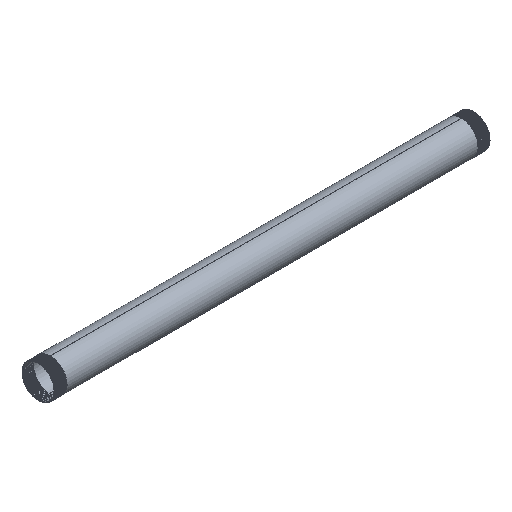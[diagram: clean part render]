
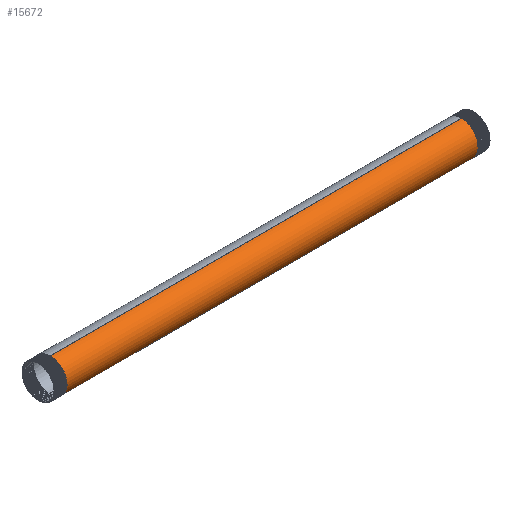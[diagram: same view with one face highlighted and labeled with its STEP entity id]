
A CAD part, isometric view. The second image highlights one B-rep face of the part: STEP entity #15672.
In plain terms, the highlighted cylindrical face has radius 38.05 mm (diameter 76.1 mm), a partial arc.
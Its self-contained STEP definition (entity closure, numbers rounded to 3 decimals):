
#72 =( BOUNDED_CURVE ( )  B_SPLINE_CURVE ( 2, ( #4931, #16792, #15470, #5013, #3616, #7654, #3447, #11512, #4843 ),
 .UNSPECIFIED., .F., .F. ) 
 B_SPLINE_CURVE_WITH_KNOTS ( ( 3, 2, 2, 2, 3 ),
 ( 0., 0.006, 0.011, 0.017, 0.023 ),
 .UNSPECIFIED. ) 
 CURVE ( )  GEOMETRIC_REPRESENTATION_ITEM ( )  RATIONAL_B_SPLINE_CURVE ( ( 1., 0.924, 1., 0.924, 1., 0.924, 1., 0.924, 1. ) ) 
 REPRESENTATION_ITEM ( '' )  );
#283 = ORIENTED_EDGE ( 'NONE', *, *, #5187, .T. ) ;
#652 = VECTOR ( 'NONE', #727, 1000. ) ;
#727 = DIRECTION ( 'NONE',  ( -1., 0., 0. ) ) ;
#1467 = CARTESIAN_POINT ( 'NONE',  ( 472.156, -38.05, 15.761 ) ) ;
#1650 = CARTESIAN_POINT ( 'NONE',  ( 471.688, 0., -38.05 ) ) ;
#3050 = CARTESIAN_POINT ( 'NONE',  ( 471.969, -38.05, -15.761 ) ) ;
#3447 = CARTESIAN_POINT ( 'NONE',  ( -472.25, -26.905, 26.905 ) ) ;
#3616 = CARTESIAN_POINT ( 'NONE',  ( -472.063, -38.05, 0. ) ) ;
#3717 = LINE ( 'NONE', #12756, #652 ) ;
#3879 = VERTEX_POINT ( 'NONE', #4413 ) ;
#4245 = CARTESIAN_POINT ( 'NONE',  ( -149.494, 0., -38.05 ) ) ;
#4279 = CARTESIAN_POINT ( 'NONE',  ( 472.438, 0., 38.05 ) ) ;
#4329 = CARTESIAN_POINT ( 'NONE',  ( -149.494, 0., 0. ) ) ;
#4413 = CARTESIAN_POINT ( 'NONE',  ( 472.438, 0., 38.05 ) ) ;
#4455 = CARTESIAN_POINT ( 'NONE',  ( 472.063, -38.05, 0. ) ) ;
#4838 = CARTESIAN_POINT ( 'NONE',  ( 471.688, 0., -38.05 ) ) ;
#4843 = CARTESIAN_POINT ( 'NONE',  ( -472.438, 0., 38.05 ) ) ;
#4931 = CARTESIAN_POINT ( 'NONE',  ( -471.688, 0., -38.05 ) ) ;
#5013 = CARTESIAN_POINT ( 'NONE',  ( -471.969, -38.05, -15.761 ) ) ;
#5187 = EDGE_CURVE ( 'NONE', #15794, #3879, #16904, .T. ) ;
#5594 = CARTESIAN_POINT ( 'NONE',  ( 471.875, -26.905, -26.905 ) ) ;
#5981 = EDGE_CURVE ( 'NONE', #12308, #6744, #72, .T. ) ;
#6744 = VERTEX_POINT ( 'NONE', #10223 ) ;
#7149 = DIRECTION ( 'NONE',  ( 0., 0., 1. ) ) ;
#7229 = CYLINDRICAL_SURFACE ( 'NONE', #11576, 38.05 ) ;
#7654 = CARTESIAN_POINT ( 'NONE',  ( -472.156, -38.05, 15.761 ) ) ;
#7818 = ORIENTED_EDGE ( 'NONE', *, *, #5981, .F. ) ;
#8545 = FACE_OUTER_BOUND ( 'NONE', #16310, .T. ) ;
#9911 = VECTOR ( 'NONE', #17332, 1000. ) ;
#10223 = CARTESIAN_POINT ( 'NONE',  ( -472.438, 0., 38.05 ) ) ;
#11260 = DIRECTION ( 'NONE',  ( -1., 0., 0. ) ) ;
#11512 = CARTESIAN_POINT ( 'NONE',  ( -472.344, -15.761, 38.05 ) ) ;
#11576 = AXIS2_PLACEMENT_3D ( 'NONE', #4329, #11260, #7149 ) ;
#12308 = VERTEX_POINT ( 'NONE', #16526 ) ;
#12399 = ORIENTED_EDGE ( 'NONE', *, *, #16625, .F. ) ;
#12756 = CARTESIAN_POINT ( 'NONE',  ( -149.494, 0., 38.05 ) ) ;
#13490 = CARTESIAN_POINT ( 'NONE',  ( 472.25, -26.905, 26.905 ) ) ;
#14824 = CARTESIAN_POINT ( 'NONE',  ( 472.344, -15.761, 38.05 ) ) ;
#15079 = CARTESIAN_POINT ( 'NONE',  ( 471.781, -15.761, -38.05 ) ) ;
#15470 = CARTESIAN_POINT ( 'NONE',  ( -471.875, -26.905, -26.905 ) ) ;
#15536 = EDGE_CURVE ( 'NONE', #3879, #6744, #3717, .T. ) ;
#15672 = ADVANCED_FACE ( 'NONE', ( #8545 ), #7229, .T. ) ;
#15794 = VERTEX_POINT ( 'NONE', #4838 ) ;
#16016 = LINE ( 'NONE', #4245, #9911 ) ;
#16020 = ORIENTED_EDGE ( 'NONE', *, *, #15536, .T. ) ;
#16310 = EDGE_LOOP ( 'NONE', ( #12399, #283, #16020, #7818 ) ) ;
#16526 = CARTESIAN_POINT ( 'NONE',  ( -471.688, 0., -38.05 ) ) ;
#16625 = EDGE_CURVE ( 'NONE', #15794, #12308, #16016, .T. ) ;
#16792 = CARTESIAN_POINT ( 'NONE',  ( -471.781, -15.761, -38.05 ) ) ;
#16904 =( BOUNDED_CURVE ( )  B_SPLINE_CURVE ( 2, ( #1650, #15079, #5594, #3050, #4455, #1467, #13490, #14824, #4279 ),
 .UNSPECIFIED., .F., .F. ) 
 B_SPLINE_CURVE_WITH_KNOTS ( ( 3, 2, 2, 2, 3 ),
 ( 0., 0.006, 0.011, 0.017, 0.023 ),
 .UNSPECIFIED. ) 
 CURVE ( )  GEOMETRIC_REPRESENTATION_ITEM ( )  RATIONAL_B_SPLINE_CURVE ( ( 1., 0.924, 1., 0.924, 1., 0.924, 1., 0.924, 1. ) ) 
 REPRESENTATION_ITEM ( '' )  );
#17332 = DIRECTION ( 'NONE',  ( -1., 0., 0. ) ) ;
